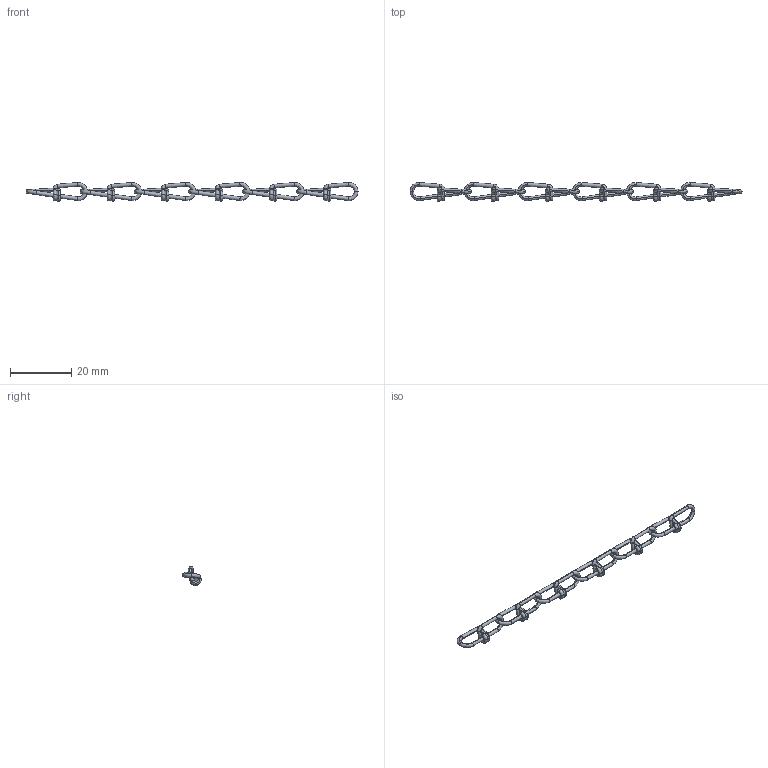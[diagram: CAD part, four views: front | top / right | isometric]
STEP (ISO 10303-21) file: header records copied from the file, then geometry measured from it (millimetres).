
FILE_DESCRIPTION (( 'STEP AP203' ), '1' );
FILE_NAME ('EB-931S-1.STEP', '2013-08-09T02:51:31', ( 'SDS' ), ( 'SDS' ), 'SwSTEP 2.0', 'SolidWorks 2002296', '' );
FILE_SCHEMA (( 'CONFIG_CONTROL_DESIGN' ));
Length unit declared in the file: millimetre
Products named in the file (7): EB-931S-1; EB-931S-11_蹬怮椔; EB-931S-13_蹬怮椔; EB-931S-12_蹬怮椔; EB-931S-14_蹬怮椔; EB-931S-15_蹬怮椔; EB-931S-16_蹬怮椔
Assembly tree (6 placements, depth 2):
  EB-931S-1
    EB-931S-11_蹬怮椔
    EB-931S-13_蹬怮椔
    EB-931S-12_蹬怮椔
    EB-931S-15_蹬怮椔
    EB-931S-16_蹬怮椔
    EB-931S-14_蹬怮椔
Bounding box: 108 x 6.17 x 6.19 mm (x, y, z)
Volume: 422 mm3; surface area: 1420.5 mm2
Topology: 6 solids, 6 shells, 216 faces, 528 edges, 324 vertices
Faces by surface type: bspline 120, cylinder 84, plane 12
Entity records: 23049 total; most frequent: CARTESIAN_POINT 17891, ORIENTED_EDGE 1056, DIRECTION 798, EDGE_CURVE 528, AXIS2_PLACEMENT_3D 357, VERTEX_POINT 324, CIRCLE 252, FACE_OUTER_BOUND 216
